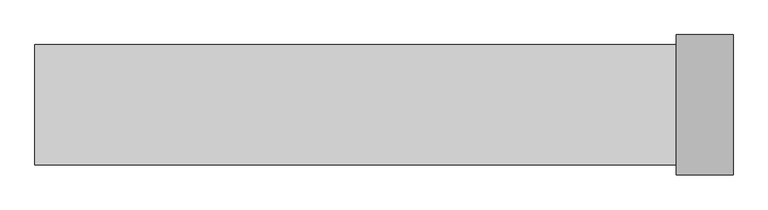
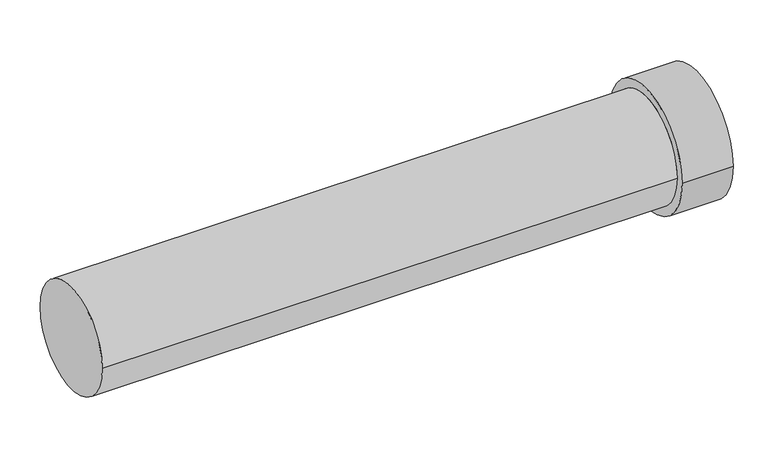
"""IFC4 building model written with IfcOpenShell, lengths in millimetres: duct segment geometry, NLRS_57_DUF_UN_duct EPP_M&G : ø125 - ø180."""

from ifc_helpers import new_model, si_unit, frame, origin, place, context, project, spatial, polyline, circle_curve, source, transform, mapped, element, save
from ifc_brep_helpers import plane_surface, cylinder_surface, revolved_surface, advanced_brep


def duct_segment_a98b25c4(model_context):
    return source(origin(), model_context, "Body", "AdvancedBrep", [
        advanced_brep(
        [(1005.0, -90.0, 0.0), (1005.0, 90.0, 0.0), (0.0, 90.0, 0.0), (0.0, -90.0, 0.0), (960.0, -90.0, 0.0), (960.0, 90.0, 0.0), (960.0, -105.0, 0.0), (960.0, 105.0, 0.0), (1045.0, -105.0, 0.0), (1045.0, 105.0, 0.0), (1045.0, -90.0, 0.0), (1045.0, 90.0, 0.0)],
        [
            (0, 1, circle_curve(frame((1005.0, 0.0, 0.0), z_axis=(1.0, 0.0, 0.0), x_axis=(0.0, 1.0, 0.0)), 90.0)),
            (1, 0, circle_curve(frame((1005.0, 0.0, 0.0), z_axis=(1.0, 0.0, 0.0), x_axis=(0.0, 1.0, 0.0)), 90.0)),
            (2, 3, circle_curve(frame((0.0, 0.0, 0.0), z_axis=(-1.0, 0.0, 0.0), x_axis=(0.0, -1.0, 0.0)), 90.0)),
            (3, 2, circle_curve(frame((0.0, 0.0, 0.0), z_axis=(-1.0, 0.0, 0.0), x_axis=(0.0, -1.0, 0.0)), 90.0)),
            (3, 4),
            (4, 5, circle_curve(frame((960.0, 0.0, 0.0), z_axis=(-1.0, 0.0, 0.0), x_axis=(0.0, -1.0, 0.0)), 90.0)),
            (5, 2),
            (5, 4, circle_curve(frame((960.0, 0.0, 0.0), z_axis=(-1.0, 0.0, 0.0), x_axis=(0.0, -1.0, 0.0)), 90.0)),
            (6, 7, circle_curve(frame((960.0, 0.0, 0.0), z_axis=(-1.0, 0.0, 0.0), x_axis=(0.0, 1.0, 0.0)), 105.0)),
            (7, 6, circle_curve(frame((960.0, 0.0, 0.0), z_axis=(-1.0, 0.0, 0.0), x_axis=(0.0, 1.0, 0.0)), 105.0)),
            (8, 9, circle_curve(frame((1045.0, 0.0, 0.0), z_axis=(1.0, 0.0, 0.0), x_axis=(0.0, 1.0, 0.0)), 105.0)),
            (9, 8, circle_curve(frame((1045.0, 0.0, 0.0), z_axis=(1.0, 0.0, 0.0), x_axis=(0.0, 1.0, 0.0)), 105.0)),
            (10, 11, circle_curve(frame((1045.0, 0.0, 0.0), z_axis=(-1.0, 0.0, 0.0), x_axis=(0.0, 1.0, 0.0)), 90.0)),
            (11, 10, circle_curve(frame((1045.0, 0.0, 0.0), z_axis=(-1.0, 0.0, 0.0), x_axis=(0.0, 1.0, 0.0)), 90.0)),
            (11, 1),
            (0, 10),
            (6, 8),
            (9, 7),
        ],
        [
            plane_surface(frame((1005.0, 0.0, 0.0), z_axis=(1.0, 0.0, 0.0), x_axis=(0.0, 0.0, 1.0))),
            plane_surface(frame((0.0, 0.0, 0.0), z_axis=(-1.0, 0.0, 0.0), x_axis=(0.0, 0.0, 1.0))),
            cylinder_surface(frame((1005.0, 0.0, 0.0), z_axis=(1.0, 0.0, 0.0), x_axis=(0.0, -1.0, 0.0)), 90.0),
            plane_surface(frame((960.0, 0.0, 0.0), z_axis=(-1.0, 0.0, 0.0), x_axis=(0.0, 0.0, 1.0))),
            plane_surface(frame((1045.0, 0.0, 0.0), z_axis=(1.0, 0.0, 0.0), x_axis=(0.0, 0.0, 1.0))),
            revolved_surface(polyline([(1045.0, 90.0, 0.0), (1005.0, 90.0, 0.0)]), (960.0, 0.0, 0.0), (1.0, 0.0, 0.0)),
            cylinder_surface(frame((960.0, 0.0, 0.0), z_axis=(-1.0, 0.0, 0.0), x_axis=(0.0, 1.0, 0.0)), 105.0),
        ],
        [
            (0, [[1, 2]]),
            (1, [[3, 4]]),
            (2, [[-4, 5, 6, 7]]),
            (2, [[-3, -7, 8, -5]]),
            (3, [[9, 10], [-6, -8]]),
            (4, [[11, 12], [13, 14]]),
            (5, [[-14, 15, -1, 16]]),
            (5, [[-13, -16, -2, -15]]),
            (6, [[-9, 17, -12, 18]]),
            (6, [[-10, -18, -11, -17]]),
        ],
    ),
    ])


if __name__ == "__main__":
    model = new_model("IFC4")
    model_context = context("Model", 3, world=origin())
    ifc_project = project(units=[si_unit("LENGTHUNIT", "METRE", prefix="MILLI")], contexts=[model_context])
    site = spatial("IfcSite", under=ifc_project)
    building = spatial("IfcBuilding", under=site)
    placement = place(None, origin())
    duct_segment_shape = duct_segment_a98b25c4(model_context)
    element("IfcDuctSegment", 1, ObjectType="NLRS_57_DUF_UN_duct EPP_M&G : ø125 - ø180", at=placement, inside=building, context=model_context, shape_type="MappedRepresentation", body=[
        mapped(duct_segment_shape, transform((0.0, 0.0, 0.0), x_axis=(1.0, 0.0, 0.0), y_axis=(0.0, 1.0, 0.0), z_axis=(0.0, 0.0, 1.0))),
    ])
    save(model, "model.ifc")
